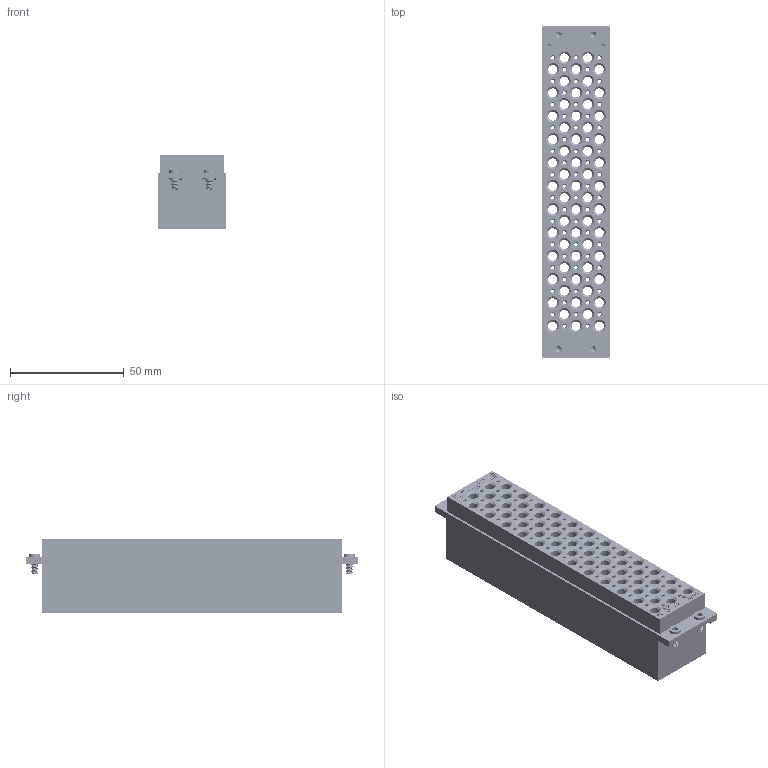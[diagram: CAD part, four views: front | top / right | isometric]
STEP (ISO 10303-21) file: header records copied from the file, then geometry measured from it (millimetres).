
FILE_DESCRIPTION((''),'2;1');
FILE_NAME('C:\Users\davecooper\Desktop\563729-CU.stp','2012-08-02T09:29:58',('davecooper'),(''),'Autodesk Inventor 2011','Autodesk Inventor 2011','');
FILE_SCHEMA(('CONFIG_CONTROL_DESIGN'));
Length unit declared in the file: inch
Products named in the file (1): 563729-CU
Bounding box: 29.97 x 146.05 x 32.79 mm (x, y, z)
Surface area: 72732.4 mm2 (no closed solid volume)
Topology: 0 solids, 18 shells, 2782 faces, 6665 edges, 4442 vertices
Faces by surface type: plane 1156, bspline 738, cylinder 736, cone 152
Full cylindrical faces by diameter (mm): 1.397 x60, 1.524 x8, 1.588 x4, 2.032 x8, 2.083 x60, 2.362 x64, 2.381 x4, 2.438 x4, 2.54 x68, 2.591 x4, 2.845 x24, 3.124 x60, 3.429 x4, 3.937 x60, 3.962 x8, 4.064 x4, 4.674 x60, 4.826 x60, 5.08 x4, 5.588 x60, 5.969 x60
Entity records: 85678 total; most frequent: CARTESIAN_POINT 25662, ORIENTED_EDGE 11258, DIRECTION 9663, EDGE_CURVE 5629, EDGE_LOOP 4597, VERTEX_POINT 4250, AXIS2_PLACEMENT_3D 3597, FACE_OUTER_BOUND 2754
